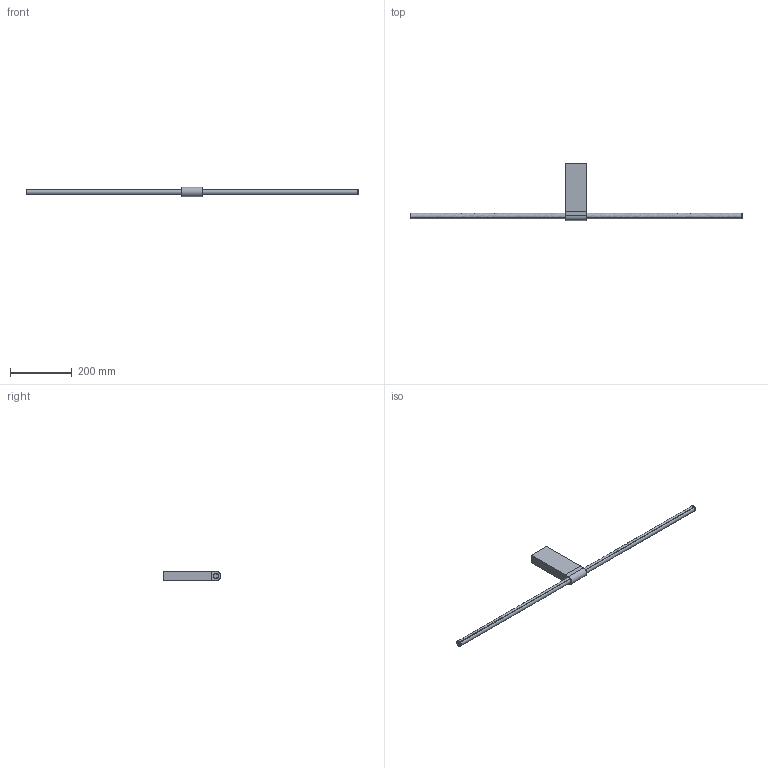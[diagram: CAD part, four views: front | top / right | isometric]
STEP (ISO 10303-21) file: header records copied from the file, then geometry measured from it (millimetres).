
FILE_DESCRIPTION(/* description */ (''),/* implementation_level */ '2;1');
FILE_NAME(/* name */ '4568',/* time_stamp */ '2021-03-31T13:13:11+02:00',/* author */ (''),/* organization */ (''),/* preprocessor_version */ 'ST-DEVELOPER v16.5',/* originating_system */ '',/* authorisation */ '');
FILE_SCHEMA (('CONFIG_CONTROL_DESIGN'));
Length unit declared in the file: millimetre
Products named in the file (1): Document
Bounding box: 1076 x 184.96 x 30 mm (x, y, z)
Volume: 459254.3 mm3; surface area: 160597 mm2
Topology: 5 solids, 6 shells, 26 faces, 49 edges, 34 vertices
Faces by surface type: plane 16, cylinder 8, bspline 2
Full cylindrical faces by diameter (mm): 18 x2
Entity records: 811 total; most frequent: CARTESIAN_POINT 373, ORIENTED_EDGE 94, EDGE_CURVE 49, VERTEX_POINT 34, DIRECTION 30, AXIS2_PLACEMENT_3D 27, ADVANCED_FACE 26, FACE_OUTER_BOUND 26
